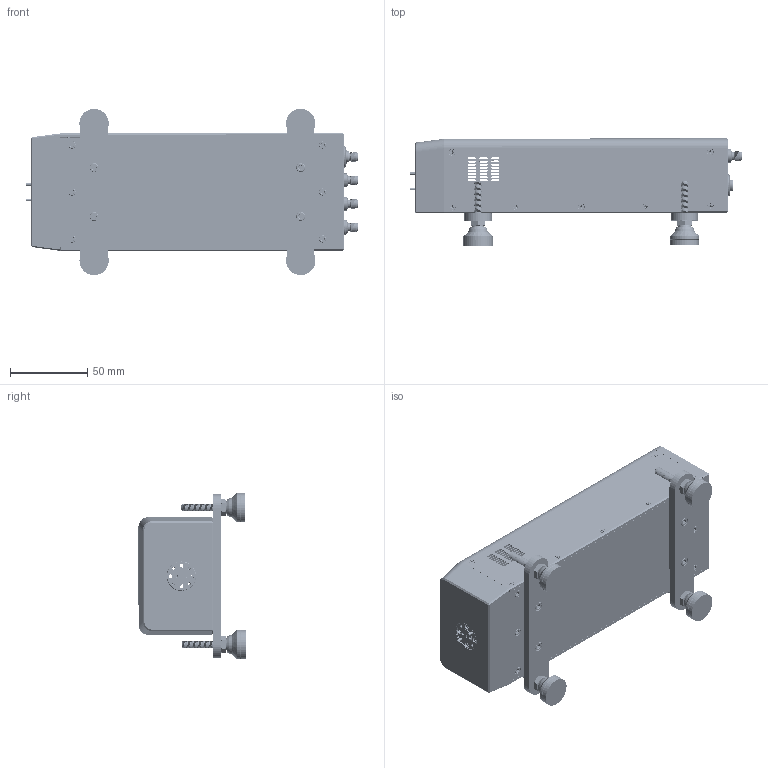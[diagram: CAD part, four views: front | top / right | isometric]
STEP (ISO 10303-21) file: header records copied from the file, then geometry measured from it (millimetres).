
FILE_DESCRIPTION (( 'STEP AP214' ), '1' );
FILE_NAME ('TO-SW-A-2, Defeatured.STEP', '2025-07-09T18:01:25', ( '' ), ( '' ), 'SwSTEP 2.0', 'SolidWorks 2021', '' );
FILE_SCHEMA (( 'AUTOMOTIVE_DESIGN' ));
Length unit declared in the file: inch
Products named in the file (1): TO-SW-A-2, Defeatured
Bounding box: 215.51 x 69.59 x 108.03 mm (x, y, z)
Volume: 232617.8 mm3; surface area: 155159.8 mm2
Topology: 103 solids, 103 shells, 4930 faces, 13157 edges, 8444 vertices
Faces by surface type: cylinder 2353, plane 1201, cone 755, bspline 576, sphere 37, torus 8
Entity records: 505094 total; most frequent: CARTESIAN_POINT 332116, ORIENTED_EDGE 26052, DIRECTION 18650, EDGE_CURVE 13026, VERTEX_POINT 8414, AXIS2_PLACEMENT_3D 6907, EDGE_LOOP 5328, LENGTH_MEASURE_WITH_UNIT 4989
